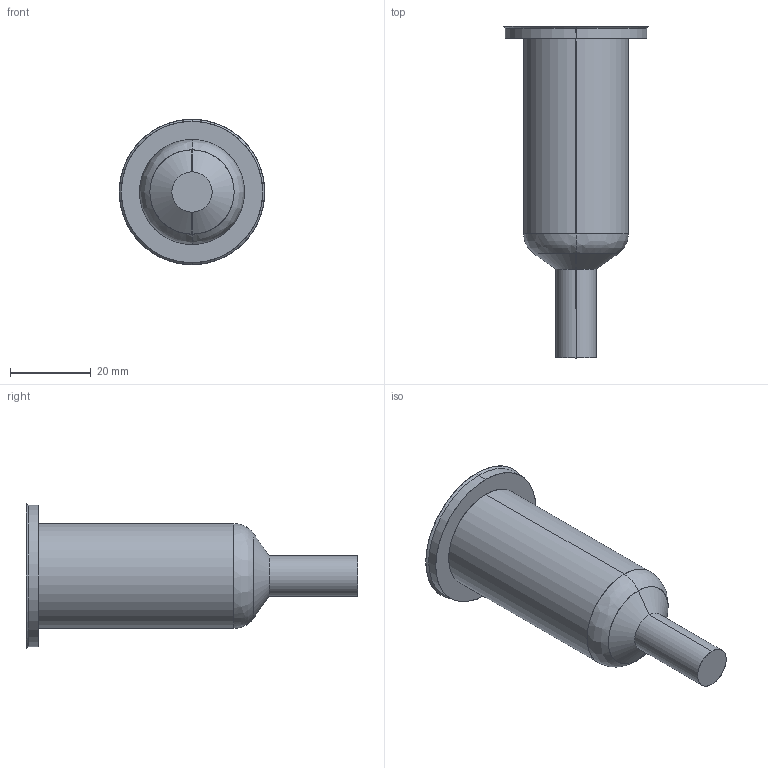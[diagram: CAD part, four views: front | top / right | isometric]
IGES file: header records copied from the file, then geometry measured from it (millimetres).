
Start section: SolidWorks IGES file using analytic representation for surfaces
Global section: file name: C:\Documents and Settings\ws-20\Desktop\TEM\Sede UGEP3151-M-A C-59 L-77 P-25.IGS; native system: SolidWorks 2012; preprocessor: SolidWorks 2012; author: ws-20; date: 120404.085415; units: millimetre
Bounding box: 36 x 82.15 x 36 mm (x, y, z)
Surface area: 7288.8 mm2 (no closed solid volume)
Topology: 0 solids, 0 shells, 15 faces, 240 edges, 240 vertices
Faces by surface type: revolution 10, bspline 5
